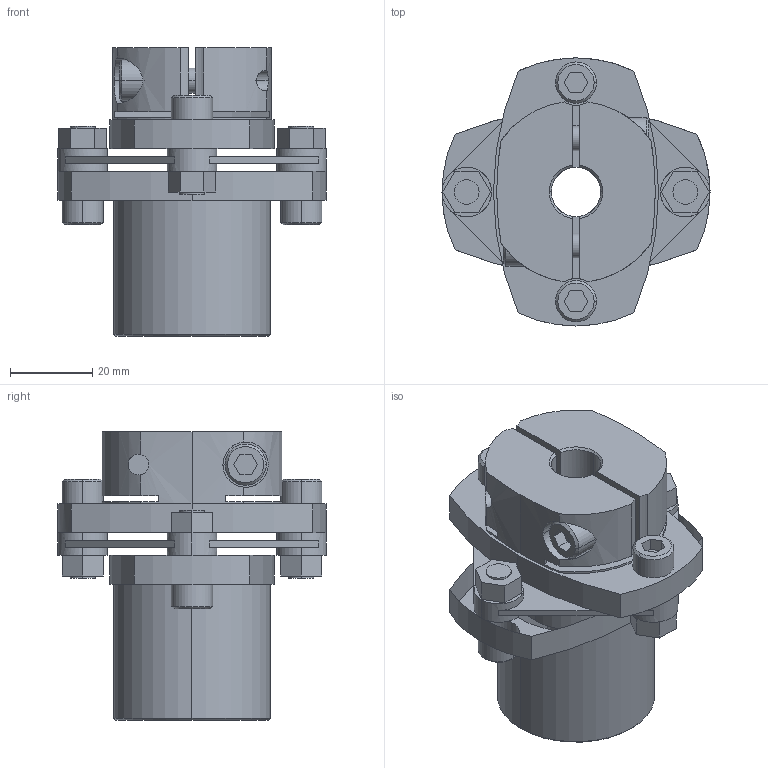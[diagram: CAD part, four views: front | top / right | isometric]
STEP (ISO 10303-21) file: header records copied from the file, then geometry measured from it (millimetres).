
FILE_DESCRIPTION((''),'2;1');
FILE_NAME('LCS-65M-16L亊12B.stp','2015-10-28T03:04:56',(''),(''),'AutoCAD STEP 2000i','AutoCAD 2000i',', , ');
FILE_SCHEMA(('CONFIG_CONTROL_DESIGN'));
Length unit declared in the file: millimetre
Products named in the file (7): LCS-65M-16L×14B; 忣兜1; LC65M-L016; LC65M-L011; LC65-B014-1; LC65-B014; LCS65-ITA
Assembly tree (6 placements, depth 2):
  LCS-65M-16L×14B
    忣兜1
    LC65M-L016
    LC65M-L011
    LC65-B014-1
    LC65-B014
    LCS65-ITA
Bounding box: 65 x 65 x 70 mm (x, y, z)
Volume: 84719.6 mm3; surface area: 29672.9 mm2
Topology: 1 solids, 1 shells, 222 faces, 582 edges, 380 vertices
Faces by surface type: plane 115, cylinder 84, cone 23
Entity records: 7375 total; most frequent: CARTESIAN_POINT 1531, DIRECTION 1242, ORIENTED_EDGE 1164, EDGE_CURVE 582, AXIS2_PLACEMENT_3D 453, VERTEX_POINT 380, VECTOR 336, LINE 336
